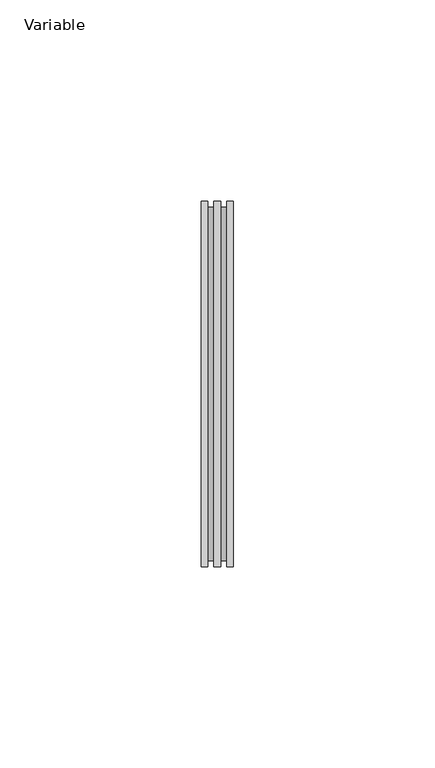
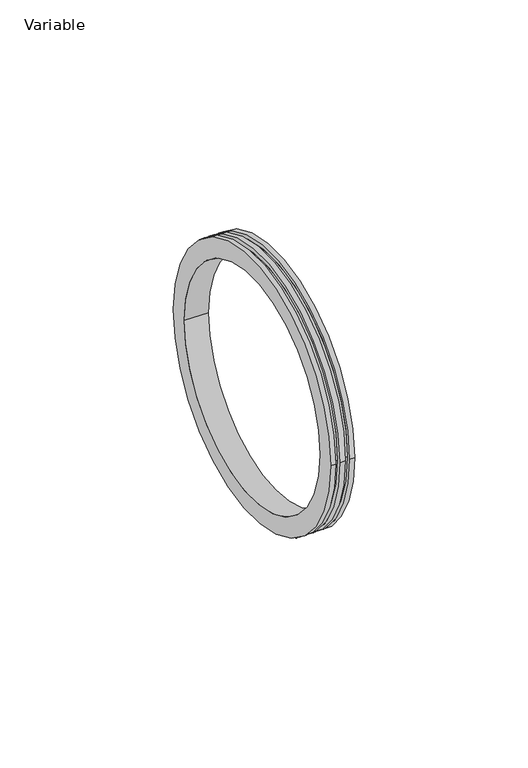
"""IFC4 building model written with IfcOpenShell, lengths in millimetres: pipe fitting geometry, AliaxisFR_Friaphon_EPDMGasket_FR : Variable."""

from ifc_helpers import new_model, si_unit, frame, origin, place, context, project, spatial, polyline, circle_curve, source, transform, mapped, element, save
from ifc_brep_helpers import plane_surface, cylinder_surface, revolved_surface, advanced_brep


def variable_02b6d671(model_context):
    return source(origin(), model_context, "Body", "AdvancedBrep", [
        advanced_brep(
        [(4.0, -45.4, 0.0), (4.0, 45.4, 0.0), (4.0, -39.0, 0.0), (4.0, 39.0, 0.0), (-4.0, -45.4, 0.0), (-4.0, 45.4, 0.0), (-4.0, -39.0, 0.0), (-4.0, 39.0, 0.0), (2.3663702, -45.4, 0.0), (2.3663702, 45.4, 0.0), (-2.3663702, 45.4, 0.0), (-2.3663702, -45.4, 0.0), (-0.8836298, -45.4, 0.0), (-0.8836298, 45.4, 0.0), (0.8836298, 45.4, 0.0), (0.8836298, -45.4, 0.0), (-0.8836298, -43.9, 0.0), (-0.8836298, 43.9, 0.0), (-2.3663702, -43.9, 0.0), (-2.3663702, 43.9, 0.0), (2.3663702, -43.9, 0.0), (2.3663702, 43.9, 0.0), (0.8836298, -43.9, 0.0), (0.8836298, 43.9, 0.0)],
        [
            (0, 1, circle_curve(frame((4.0, 0.0, 0.0), z_axis=(1.0, 0.0, 0.0), x_axis=(0.0, 1.0, 0.0)), 45.4)),
            (1, 0, circle_curve(frame((4.0, 0.0, 0.0), z_axis=(1.0, 0.0, 0.0), x_axis=(0.0, 1.0, 0.0)), 45.4)),
            (2, 3, circle_curve(frame((4.0, 0.0, 0.0), z_axis=(-1.0, 0.0, 0.0), x_axis=(0.0, 1.0, 0.0)), 39.0)),
            (3, 2, circle_curve(frame((4.0, 0.0, 0.0), z_axis=(-1.0, 0.0, 0.0), x_axis=(0.0, 1.0, 0.0)), 39.0)),
            (4, 5, circle_curve(frame((-4.0, 0.0, 0.0), z_axis=(-1.0, 0.0, 0.0), x_axis=(0.0, 1.0, 0.0)), 45.4)),
            (5, 4, circle_curve(frame((-4.0, 0.0, 0.0), z_axis=(-1.0, 0.0, 0.0), x_axis=(0.0, 1.0, 0.0)), 45.4)),
            (6, 7, circle_curve(frame((-4.0, 0.0, 0.0), z_axis=(1.0, 0.0, 0.0), x_axis=(0.0, 1.0, 0.0)), 39.0)),
            (7, 6, circle_curve(frame((-4.0, 0.0, 0.0), z_axis=(1.0, 0.0, 0.0), x_axis=(0.0, 1.0, 0.0)), 39.0)),
            (0, 8),
            (8, 9, circle_curve(frame((2.3663702, 0.0, 0.0), z_axis=(1.0, 0.0, 0.0), x_axis=(0.0, 1.0, 0.0)), 45.4)),
            (9, 1),
            (5, 10),
            (10, 11, circle_curve(frame((-2.3663702, 0.0, 0.0), z_axis=(-1.0, 0.0, 0.0), x_axis=(0.0, 1.0, 0.0)), 45.4)),
            (11, 4),
            (12, 13, circle_curve(frame((-0.8836298, 0.0, 0.0), z_axis=(1.0, 0.0, 0.0), x_axis=(0.0, 1.0, 0.0)), 45.4)),
            (13, 14),
            (14, 15, circle_curve(frame((0.8836298, 0.0, 0.0), z_axis=(-1.0, 0.0, 0.0), x_axis=(0.0, 1.0, 0.0)), 45.4)),
            (15, 12),
            (9, 8, circle_curve(frame((2.3663702, 0.0, 0.0), z_axis=(1.0, 0.0, 0.0), x_axis=(0.0, 1.0, 0.0)), 45.4)),
            (11, 10, circle_curve(frame((-2.3663702, 0.0, 0.0), z_axis=(-1.0, 0.0, 0.0), x_axis=(0.0, 1.0, 0.0)), 45.4)),
            (13, 12, circle_curve(frame((-0.8836298, 0.0, 0.0), z_axis=(1.0, 0.0, 0.0), x_axis=(0.0, 1.0, 0.0)), 45.4)),
            (15, 14, circle_curve(frame((0.8836298, 0.0, 0.0), z_axis=(-1.0, 0.0, 0.0), x_axis=(0.0, 1.0, 0.0)), 45.4)),
            (2, 6),
            (7, 3),
            (16, 17, circle_curve(frame((-0.8836298, 0.0, 0.0), z_axis=(1.0, 0.0, 0.0), x_axis=(0.0, 1.0, 0.0)), 43.9)),
            (17, 16, circle_curve(frame((-0.8836298, 0.0, 0.0), z_axis=(1.0, 0.0, 0.0), x_axis=(0.0, 1.0, 0.0)), 43.9)),
            (18, 19, circle_curve(frame((-2.3663702, 0.0, 0.0), z_axis=(-1.0, 0.0, 0.0), x_axis=(0.0, 1.0, 0.0)), 43.9)),
            (19, 18, circle_curve(frame((-2.3663702, 0.0, 0.0), z_axis=(-1.0, 0.0, 0.0), x_axis=(0.0, 1.0, 0.0)), 43.9)),
            (17, 19),
            (18, 16),
            (20, 21, circle_curve(frame((2.3663702, 0.0, 0.0), z_axis=(1.0, 0.0, 0.0), x_axis=(0.0, 1.0, 0.0)), 43.9)),
            (21, 20, circle_curve(frame((2.3663702, 0.0, 0.0), z_axis=(1.0, 0.0, 0.0), x_axis=(0.0, 1.0, 0.0)), 43.9)),
            (22, 23, circle_curve(frame((0.8836298, 0.0, 0.0), z_axis=(-1.0, 0.0, 0.0), x_axis=(0.0, 1.0, 0.0)), 43.9)),
            (23, 22, circle_curve(frame((0.8836298, 0.0, 0.0), z_axis=(-1.0, 0.0, 0.0), x_axis=(0.0, 1.0, 0.0)), 43.9)),
            (21, 23),
            (22, 20),
        ],
        [
            plane_surface(frame((4.0, 45.4, 0.0), z_axis=(1.0, 0.0, 0.0), x_axis=(0.0, 0.0, 1.0))),
            plane_surface(frame((-4.0, 45.4, 0.0), z_axis=(-1.0, 0.0, 0.0), x_axis=(0.0, 0.0, -1.0))),
            cylinder_surface(frame((-4.0, 0.0, 0.0), z_axis=(1.0, 0.0, 0.0), x_axis=(0.0, 1.0, 0.0)), 45.4),
            revolved_surface(polyline([(-4.0, 39.0, 0.0), (4.0, 39.0, 0.0)]), (0.0, 0.0, 0.0), (-1.0, 0.0, 0.0)),
            plane_surface(frame((-0.8836298, 45.4, 0.0), z_axis=(-1.0, 0.0, 0.0), x_axis=(0.0, 0.0, 1.0))),
            plane_surface(frame((-2.3663702, 45.4, 0.0), z_axis=(1.0, 0.0, 0.0), x_axis=(0.0, 0.0, -1.0))),
            cylinder_surface(frame((0.0, 0.0, 0.0), z_axis=(-1.0, 0.0, 0.0), x_axis=(0.0, 1.0, 0.0)), 43.9),
            plane_surface(frame((2.3663702, 45.4, 0.0), z_axis=(-1.0, 0.0, 0.0), x_axis=(0.0, 0.0, 1.0))),
            plane_surface(frame((0.8836298, 45.4, 0.0), z_axis=(1.0, 0.0, 0.0), x_axis=(0.0, 0.0, -1.0))),
        ],
        [
            (0, [[1, 2], [3, 4]]),
            (1, [[5, 6], [7, 8]]),
            (2, [[-1, 9, 10, 11]]),
            (2, [[-6, 12, 13, 14]]),
            (2, [[15, 16, 17, 18]]),
            (2, [[-2, -11, 19, -9]]),
            (2, [[-5, -14, 20, -12]]),
            (2, [[21, -18, 22, -16]]),
            (3, [[-3, 23, -8, 24]]),
            (3, [[-4, -24, -7, -23]]),
            (4, [[-15, -21], [25, 26]]),
            (5, [[-13, -20], [27, 28]]),
            (6, [[-26, 29, -27, 30]]),
            (6, [[-25, -30, -28, -29]]),
            (7, [[-10, -19], [31, 32]]),
            (8, [[-17, -22], [33, 34]]),
            (6, [[-32, 35, -33, 36]]),
            (6, [[-31, -36, -34, -35]]),
        ],
    ),
    ])


if __name__ == "__main__":
    model = new_model("IFC4")
    model_context = context("Model", 3, world=origin())
    ifc_project = project(units=[si_unit("LENGTHUNIT", "METRE", prefix="MILLI")], contexts=[model_context])
    site = spatial("IfcSite", under=ifc_project)
    building = spatial("IfcBuilding", under=site)
    placement = place(None, origin())
    variable_shape = variable_02b6d671(model_context)
    element("IfcPipeFitting", 1, ObjectType="AliaxisFR_Friaphon_EPDMGasket_FR : Variable", at=placement, inside=building, context=model_context, shape_type="MappedRepresentation", body=[
        mapped(variable_shape, transform((0.0, 0.0, 0.0), x_axis=(1.0, 0.0, 0.0), y_axis=(0.0, 1.0, 0.0), z_axis=(0.0, 0.0, 1.0))),
    ])
    save(model, "model.ifc")
